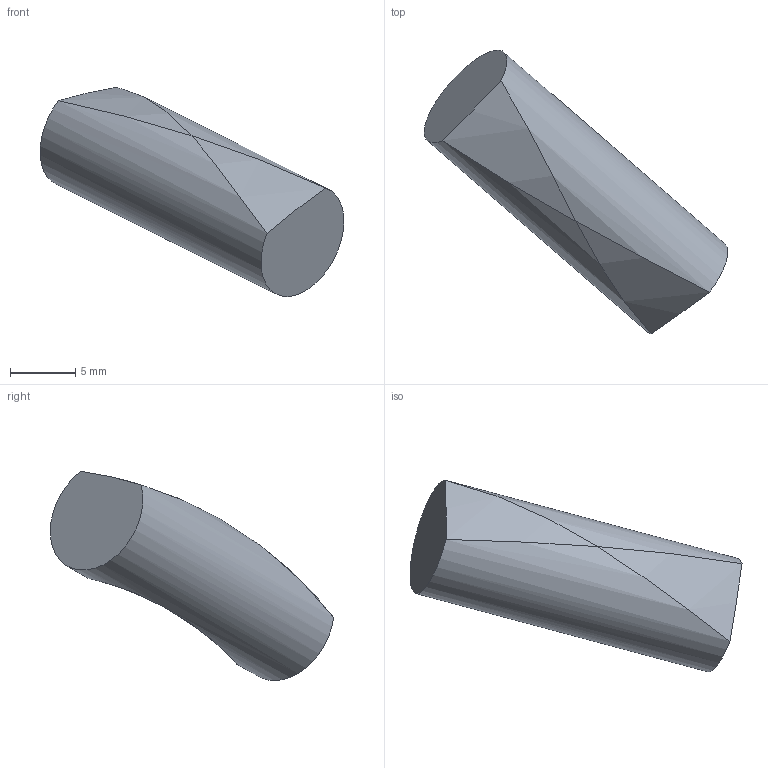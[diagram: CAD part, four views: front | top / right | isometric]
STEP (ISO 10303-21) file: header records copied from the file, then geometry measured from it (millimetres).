
FILE_DESCRIPTION(('Open CASCADE Model'),'2;1');
FILE_NAME('Open CASCADE Shape Model','2026-11-24T19:57:41',('Author'),( 'Open CASCADE'),'Open CASCADE STEP processor 7.8','Open CASCADE 7.8' ,'Unknown');
FILE_SCHEMA(('AUTOMOTIVE_DESIGN { 1 0 10303 214 1 1 1 1 }'));
Length unit declared in the file: millimetre
Products named in the file (1): Open CASCADE STEP translator 7.8 184
Bounding box: 23.32 x 21.78 x 16.07 mm (x, y, z)
Volume: 1447.9 mm3; surface area: 786.2 mm2
Topology: 1 solids, 1 shells, 6 faces, 9 edges, 6 vertices
Faces by surface type: cylinder 4, plane 2
Full cylindrical faces by diameter (mm): 9 x1
Entity records: 827 total; most frequent: CARTESIAN_POINT 651, DIRECTION 22, ORIENTED_EDGE 18, PCURVE 18, DEFINITIONAL_REPRESENTATION 18, B_SPLINE_CURVE_WITH_KNOTS 17, AXIS2_PLACEMENT_3D 9, EDGE_CURVE 9
